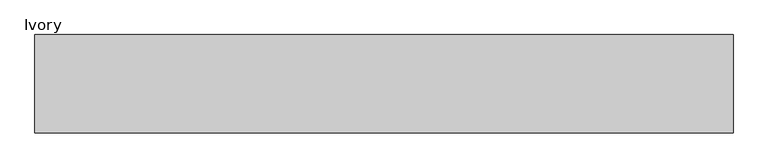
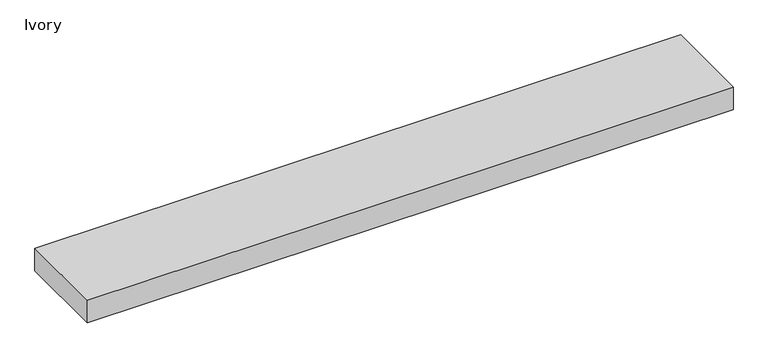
"""IFC4 building model written with IfcOpenShell, lengths in millimetres: proxy geometry, Raceway-5500_Series-Wiremold-Multi_Channel : Ivory."""

import ifcopenshell
import ifcopenshell.guid

model = None  # the IFC model being written
_history = None  # IfcOwnerHistory: only IFC2X3 demands one
_inside = {}  # id of a spatial element -> (the spatial element, [elements in it])
_under = {}  # id of a project, library or spatial element -> (it, [spatial elements below it])
_declared = {}  # id of a project -> (the project, [libraries it declares])
_typed = {}  # id of a type object -> (the type object, [elements of that type])
_made_of = {}  # id of a material, layer set ... -> (it, [elements and type objects made of it])


def new_model(schema):
    """Start an empty IFC model of exactly this schema.

    Asked for "IFC4X3", IfcOpenShell would pick the latest addendum, in which some entities
    have other attributes; the version numbers below select the first issue.
    IFC2X3 requires an IfcOwnerHistory on every rooted entity: one is made here for all.
    """
    global model, _history
    if schema == "IFC4X3":
        model = ifcopenshell.file(schema_version=(4, 3, 0, 0))
    else:
        model = ifcopenshell.file(schema=schema)
    _inside.clear()
    _under.clear()
    _declared.clear()
    _typed.clear()
    _made_of.clear()
    _history = None
    if model.schema == "IFC2X3":
        org = make("IfcOrganization", Name="unknown")
        user = make(
            "IfcPersonAndOrganization",
            ThePerson=make("IfcPerson", FamilyName="unknown"),
            TheOrganization=org,
        )
        app = make(
            "IfcApplication",
            ApplicationDeveloper=org,
            Version="unknown",
            ApplicationFullName="unknown",
            ApplicationIdentifier="unknown",
        )
        _history = make(
            "IfcOwnerHistory",
            OwningUser=user,
            OwningApplication=app,
            ChangeAction="ADDED",
            CreationDate=0,
        )
    return model


def make(cls, **values):
    """One entity of the class cls with the attributes given. An attribute that is None is left unset."""
    return model.create_entity(
        cls, **{name: value for name, value in values.items() if value is not None}
    )


def rooted(cls, **values):
    """An entity with a GlobalId (a new one), such as an element, a storey or a relation."""
    return make(cls, GlobalId=ifcopenshell.guid.new(), OwnerHistory=_history, **values)


def si_unit(unit_type, name, prefix=None):
    """IfcSIUnit, for example si_unit("LENGTHUNIT", "METRE", prefix="MILLI")."""
    return make("IfcSIUnit", UnitType=unit_type, Prefix=prefix, Name=name)


def assignment(units):
    """IfcUnitAssignment: the units of a project."""
    return None if units is None else make("IfcUnitAssignment", Units=units)


def point(xyz):
    """IfcCartesianPoint."""
    return None if xyz is None else make("IfcCartesianPoint", Coordinates=xyz)


def direction(xyz):
    """IfcDirection."""
    return None if xyz is None else make("IfcDirection", DirectionRatios=xyz)


def frame(location, z_axis=None, x_axis=None):
    """IfcAxis2Placement3D, a coordinate frame: its origin and axes. An axis left out is left unset."""
    return make(
        "IfcAxis2Placement3D",
        Location=point(location),
        Axis=direction(z_axis),
        RefDirection=direction(x_axis),
    )


def origin():
    """The frame at (0, 0, 0) with its axes left unset."""
    return frame((0.0, 0.0, 0.0))


def origin_with_axes():
    """The frame at (0, 0, 0) with the z axis (0, 0, 1) and the x axis (1, 0, 0) written out."""
    return frame((0.0, 0.0, 0.0), z_axis=(0.0, 0.0, 1.0), x_axis=(1.0, 0.0, 0.0))


def place(relative_to, where):
    """IfcLocalPlacement: puts the frame where relative to a parent placement (None: the world)."""
    return make(
        "IfcLocalPlacement", PlacementRelTo=relative_to, RelativePlacement=where
    )


def context(
    kind, dimensions, precision=None, world=None, true_north=None, identifier=None
):
    """IfcGeometricRepresentationContext, for example the 3D "Model" context."""
    return make(
        "IfcGeometricRepresentationContext",
        ContextIdentifier=identifier,
        ContextType=kind,
        CoordinateSpaceDimension=dimensions,
        Precision=precision,
        WorldCoordinateSystem=world,
        TrueNorth=true_north,
    )


def project(units=None, contexts=None):
    """IfcProject with its units and contexts."""
    return rooted(
        "IfcProject",
        Name="project",
        RepresentationContexts=contexts,
        UnitsInContext=assignment(units),
    )


def spatial(cls, under=None, at=None, **own):
    """A site, building, storey or space (cls), placed at a placement, below another one or the project."""
    s = rooted(cls, ObjectPlacement=at, **own)
    if under is not None:
        _under.setdefault(under.id(), (under, []))[1].append(s)
    return s


def polyline(points):
    """IfcPolyline through the points."""
    return make("IfcPolyline", Points=[point(p) for p in points])


def outline(outer, holes=None, kind="AREA"):
    """IfcArbitraryClosedProfileDef: a profile drawn as a closed curve; with holes, ...WithVoids."""
    if holes is None:
        return make("IfcArbitraryClosedProfileDef", ProfileType=kind, OuterCurve=outer)
    return make(
        "IfcArbitraryProfileDefWithVoids",
        ProfileType=kind,
        OuterCurve=outer,
        InnerCurves=holes,
    )


def extrude(swept, where, along, depth):
    """IfcExtrudedAreaSolid: the profile swept, set in the frame where, extruded along a direction by depth."""
    return make(
        "IfcExtrudedAreaSolid",
        SweptArea=swept,
        Position=where,
        ExtrudedDirection=direction(along),
        Depth=depth,
    )


def shape(context_of_items, identifier, shape_type, items):
    """IfcShapeRepresentation: the items that make up one representation, for example the "Body"."""
    return make(
        "IfcShapeRepresentation",
        ContextOfItems=context_of_items,
        RepresentationIdentifier=identifier,
        RepresentationType=shape_type,
        Items=items,
    )


def source(mapping_origin, context_of_items, identifier, shape_type, items):
    """IfcRepresentationMap: a shape defined once, which mapped items show again and again."""
    return make(
        "IfcRepresentationMap",
        MappingOrigin=mapping_origin,
        MappedRepresentation=shape(context_of_items, identifier, shape_type, items),
    )


def transform(
    local_origin,
    x_axis=None,
    y_axis=None,
    z_axis=None,
    scale=None,
    scale2=None,
    scale3=None,
    uniform=True,
):
    """IfcCartesianTransformationOperator3D, or its non-uniform kind. x_axis, y_axis, z_axis: its Axis1, 2, 3."""
    if uniform:
        return make(
            "IfcCartesianTransformationOperator3D",
            Axis1=direction(x_axis),
            Axis2=direction(y_axis),
            LocalOrigin=point(local_origin),
            Scale=scale,
            Axis3=direction(z_axis),
        )
    return make(
        "IfcCartesianTransformationOperator3DnonUniform",
        Axis1=direction(x_axis),
        Axis2=direction(y_axis),
        LocalOrigin=point(local_origin),
        Scale=scale,
        Axis3=direction(z_axis),
        Scale2=scale2,
        Scale3=scale3,
    )


def mapped(mapping_source, mapping_target):
    """IfcMappedItem: shows the shape of a source again, moved by a transform."""
    return make(
        "IfcMappedItem", MappingSource=mapping_source, MappingTarget=mapping_target
    )


def made_of(thing, what):
    """Note that an element or type object is made of a material, layer set ...; save() writes the relation."""
    if what is not None:
        _made_of.setdefault(what.id(), (what, []))[1].append(thing)
    return thing


def element(
    cls,
    number,
    at=None,
    inside=None,
    cuts=None,
    type_object=None,
    material=None,
    context=None,
    identifier="Body",
    shape_type=None,
    held_by="IfcProductDefinitionShape",
    body=None,
    shapes=None,
    **own,
):
    """One element of the class cls, such as IfcWall. Its Tag is "e" and its number.

    at: its placement. inside: the storey or other place that contains it. cuts: it is an
    opening in that element (IfcRelVoidsElement). A single representation is given by context,
    identifier, shape_type and body (its items); several are given by shapes. held_by: the class
    of the entity that holds the representations. save() writes the other relations.
    """
    e = rooted(cls, Tag="e%d" % number, ObjectPlacement=at, **own)
    if body is not None:
        shapes = [shape(context, identifier, shape_type, body)]
    if shapes is not None:
        e.Representation = make(held_by, Representations=shapes)
    if inside is not None:
        _inside.setdefault(inside.id(), (inside, []))[1].append(e)
    if cuts is not None:
        rooted(
            "IfcRelVoidsElement", RelatingBuildingElement=cuts, RelatedOpeningElement=e
        )
    if type_object is not None:
        _typed.setdefault(type_object.id(), (type_object, []))[1].append(e)
    return made_of(e, material)


def aggregate(whole, parts):
    """IfcRelAggregates: a whole, such as a stair, and the parts it consists of."""
    return rooted("IfcRelAggregates", RelatingObject=whole, RelatedObjects=parts)


def save(model, path):
    """Write the relations noted so far, then the file.

    IfcRelAggregates (storeys below a building ...), IfcRelContainedInSpatialStructure (elements
    in a storey), IfcRelDefinesByType, IfcRelAssociatesMaterial and IfcRelDeclares: one each for
    every whole, place, type object, material and project.
    """
    for whole, parts in _under.values():
        aggregate(whole, parts)
    for where, things in _inside.values():
        rooted(
            "IfcRelContainedInSpatialStructure",
            RelatedElements=things,
            RelatingStructure=where,
        )
    for kind, things in _typed.values():
        rooted("IfcRelDefinesByType", RelatedObjects=things, RelatingType=kind)
    for what, things in _made_of.values():
        rooted("IfcRelAssociatesMaterial", RelatedObjects=things, RelatingMaterial=what)
    for by, libraries in _declared.values():
        rooted("IfcRelDeclares", RelatingContext=by, RelatedDefinitions=libraries)
    model.write(path)


def ivory_2a843b50(model_context):
    return source(origin(), model_context, "Body", "SweptSolid", [
        extrude(outline(polyline([(1206.5, 84.9376), (1206.5, -84.9376), (0.0, -84.9376), (0.0, 84.9376), (1206.5, 84.9376)])), origin_with_axes(), (0.0, 0.0, 1.0), 44.45),
    ])


if __name__ == "__main__":
    model = new_model("IFC4")
    model_context = context("Model", 3, world=origin())
    ifc_project = project(units=[si_unit("LENGTHUNIT", "METRE", prefix="MILLI")], contexts=[model_context])
    site = spatial("IfcSite", under=ifc_project)
    building = spatial("IfcBuilding", under=site)
    placement = place(None, origin())
    ivory_shape = ivory_2a843b50(model_context)
    element("IfcBuildingElementProxy", 1, Name="Raceway-5500_Series-Wiremold-Multi_Channel : Ivory", ObjectType="Raceway-5500_Series-Wiremold-Multi_Channel : Ivory", at=placement, inside=building, context=model_context, shape_type="MappedRepresentation", body=[
        mapped(ivory_shape, transform((0.0, 0.0, 0.0), x_axis=(1.0, 0.0, 0.0), y_axis=(0.0, 1.0, 0.0), z_axis=(0.0, 0.0, 1.0))),
    ])
    save(model, "model.ifc")
